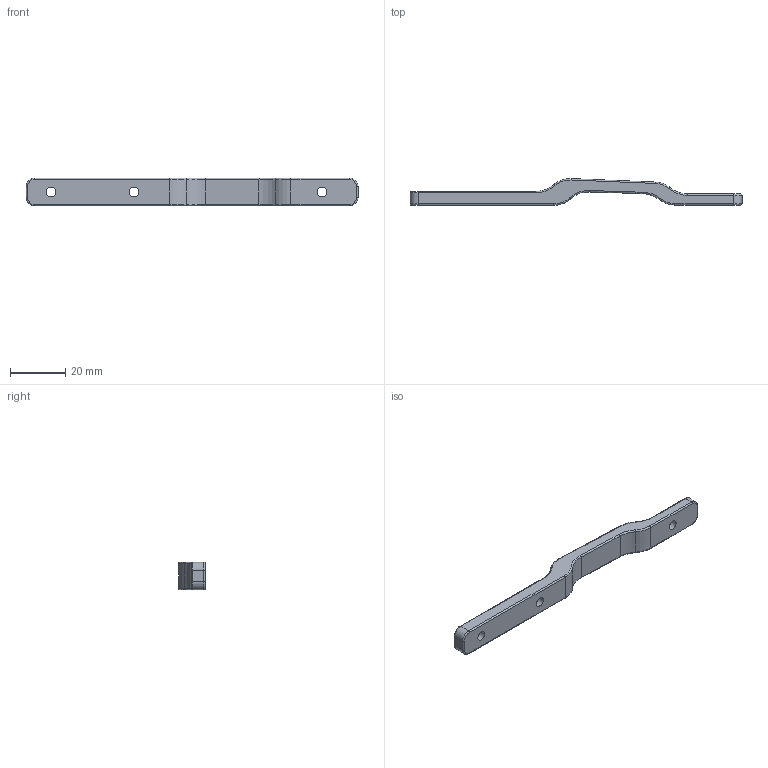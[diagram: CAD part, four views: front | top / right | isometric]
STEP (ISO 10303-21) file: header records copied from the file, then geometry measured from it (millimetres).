
FILE_DESCRIPTION(/* description */ (''),/* implementation_level */ '2;1');
FILE_NAME(/* name */ 'Hinge joint.step',/* time_stamp */ '2025-12-01T13:45:32+01:00',/* author */ (''),/* organization */ (''),/* preprocessor_version */ 'ST-DEVELOPER v20.1',/* originating_system */ 'Autodesk Translation Framework v14.21.0.0',/* authorisation */ '');
FILE_SCHEMA (('AUTOMOTIVE_DESIGN { 1 0 10303 214 3 1 1 }'));
Length unit declared in the file: millimetre
Products named in the file (1): 2025-11-16-08-20-10-952
Bounding box: 120 x 9.66 x 10 mm (x, y, z)
Volume: 5814.4 mm3; surface area: 3681.6 mm2
Topology: 1 solids, 1 shells, 65 faces, 149 edges, 86 vertices
Faces by surface type: cylinder 31, torus 24, plane 10
Full cylindrical faces by diameter (mm): 3.5 x3
Entity records: 1882 total; most frequent: DIRECTION 375, CARTESIAN_POINT 301, ORIENTED_EDGE 298, AXIS2_PLACEMENT_3D 160, EDGE_CURVE 149, CIRCLE 94, VERTEX_POINT 86, EDGE_LOOP 71
